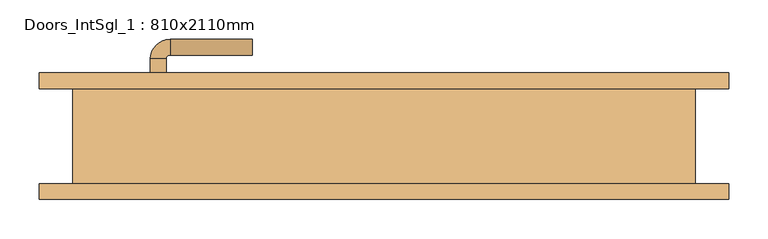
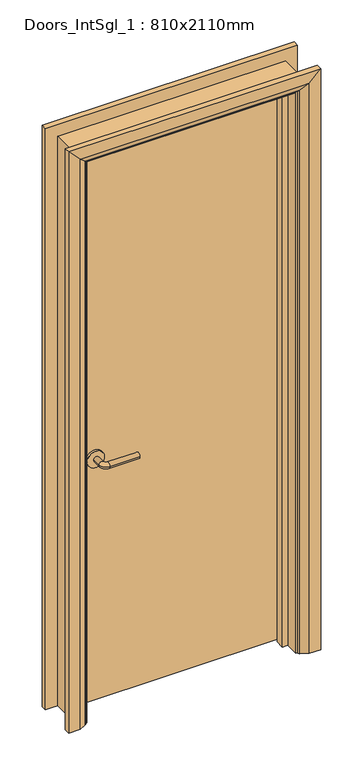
"""IFC4 building model written with IfcOpenShell, lengths in millimetres: door geometry, Doors_IntSgl_1 : 810x2110mm."""

from ifc_helpers import new_model, si_unit, point, frame, frame_2d, origin, place, context, project, spatial, polyline, circle_curve, ellipse_curve, trimmed, segment, composite_curve, outline, extrude, faceted_brep, source, transform, mapped, element, save
from ifc_brep_helpers import plane_surface, cylinder_surface, revolved_surface, advanced_brep


def doors_intsgl_1_810x2110mm_42a51698(model_context):
    return source(origin(), model_context, "Body", "SolidModel", [
        advanced_brep(
        [(-298.0, 14.75, 900.0), (-278.0, 14.75, 900.0), (-278.0, -15.25, 900.0), (-298.0, -15.25, 900.0), (-273.0, -20.25, 900.0), (-273.0, -40.25, 900.0), (-168.0, -40.25, 900.0), (-168.0, -20.25, 900.0)],
        [
            (0, 1, circle_curve(frame((-288.0, 14.75, 900.0), z_axis=(0.0, 1.0, 0.0), x_axis=(1.0, 0.0, 0.0)), 10.0)),
            (1, 0, circle_curve(frame((-288.0, 14.75, 900.0), z_axis=(0.0, 1.0, 0.0), x_axis=(1.0, 0.0, 0.0)), 10.0)),
            (1, 2),
            (2, 3, circle_curve(frame((-288.0, -15.25, 900.0), z_axis=(0.0, 1.0, 0.0), x_axis=(1.0, 0.0, 0.0)), 10.0)),
            (3, 0),
            (3, 2, circle_curve(frame((-288.0, -15.25, 900.0), z_axis=(0.0, 1.0, 0.0), x_axis=(1.0, 0.0, 0.0)), 10.0)),
            (4, 5, circle_curve(frame((-273.0, -30.25, 900.0), z_axis=(-1.0, 0.0, 0.0), x_axis=(0.0, 1.0, 0.0)), 10.0)),
            (5, 3, circle_curve(frame((-273.0, -15.25, 900.0), z_axis=(0.0, 0.0, -1.0), x_axis=(-1.0, 0.0, 0.0)), 25.0)),
            (2, 4, circle_curve(frame((-273.0, -15.25, 900.0), z_axis=(0.0, 0.0, 1.0), x_axis=(-1.0, 0.0, 0.0)), 5.0)),
            (5, 4, circle_curve(frame((-273.0, -30.25, 900.0), z_axis=(-1.0, 0.0, 0.0), x_axis=(0.0, 1.0, 0.0)), 10.0)),
            (6, 7, circle_curve(frame((-168.0, -30.25, 900.0), z_axis=(1.0, 0.0, 0.0), x_axis=(0.0, 1.0, 0.0)), 10.0)),
            (7, 6, circle_curve(frame((-168.0, -30.25, 900.0), z_axis=(1.0, 0.0, 0.0), x_axis=(0.0, 1.0, 0.0)), 10.0)),
            (4, 7),
            (6, 5),
        ],
        [
            plane_surface(frame((-288.0, 14.75, 900.0), z_axis=(0.0, 1.0, 0.0), x_axis=(0.0, 0.0, 1.0))),
            cylinder_surface(frame((-288.0, 14.75, 900.0), z_axis=(0.0, 1.0, 0.0), x_axis=(1.0, 0.0, 0.0)), 10.0),
            revolved_surface(trimmed(ellipse_curve(frame((-288.0, -15.25, 900.0), z_axis=(0.0, -1.0, 0.0), x_axis=(1.0, 0.0, 0.0)), 10.0, 10.0), [point((-298.0, -15.25, 900.0))], [point((-278.0, -15.25, 900.0))], True, "CARTESIAN"), (-273.0, -15.25, 900.0), (0.0, 0.0, -1.0)),
            revolved_surface(trimmed(ellipse_curve(frame((-288.0, -15.25, 900.0), z_axis=(0.0, -1.0, 0.0), x_axis=(1.0, 0.0, 0.0)), 10.0, 10.0), [point((-278.0, -15.25, 900.0))], [point((-298.0, -15.25, 900.0))], True, "CARTESIAN"), (-273.0, -15.25, 900.0), (0.0, 0.0, -1.0)),
            plane_surface(frame((-168.0, -30.25, 900.0), z_axis=(1.0, 0.0, 0.0), x_axis=(0.0, 0.0, 1.0))),
            cylinder_surface(frame((-273.0, -30.25, 900.0), z_axis=(-1.0, 0.0, 0.0), x_axis=(0.0, 1.0, 0.0)), 10.0),
        ],
        [
            (0, [[1, 2]]),
            (1, [[3, 4, 5, -2]]),
            (1, [[-5, 6, -3, -1]]),
            (2, [[7, 8, -4, 9]]),
            (3, [[10, -9, -6, -8]]),
            (4, [[11, 12]]),
            (5, [[13, -11, 14, -7]]),
            (5, [[-14, -12, -13, -10]]),
        ],
    ),
        extrude(outline(composite_curve([segment(trimmed(circle_curve(frame_2d((900.0, -290.5)), 30.0), [point((900.0, -320.5))], [point((900.0, -260.5))], False, "CARTESIAN"), True, "CONTINUOUS"), segment(trimmed(circle_curve(frame_2d((900.0, -290.5)), 30.0), [point((900.0, -260.5))], [point((900.0, -320.5))], False, "CARTESIAN"), True, "CONTINUOUS")], self_intersect=False)), frame((0.0, 14.75, 0.0), z_axis=(0.0, 1.0, 0.0), x_axis=(0.0, 0.0, 1.0)), (0.0, 0.0, 1.0), 8.0),
        advanced_brep(
        [(-298.0, 68.75, 900.0), (-278.0, 68.75, 900.0), (-298.0, 98.75, 900.0), (-278.0, 98.75, 900.0), (-273.0, 103.75, 900.0), (-273.0, 123.75, 900.0), (-168.0, 123.75, 900.0), (-168.0, 103.75, 900.0)],
        [
            (0, 1, circle_curve(frame((-288.0, 68.75, 900.0), z_axis=(0.0, -1.0, 0.0), x_axis=(1.0, 0.0, 0.0)), 10.0)),
            (1, 0, circle_curve(frame((-288.0, 68.75, 900.0), z_axis=(0.0, -1.0, 0.0), x_axis=(1.0, 0.0, 0.0)), 10.0)),
            (0, 2),
            (2, 3, circle_curve(frame((-288.0, 98.75, 900.0), z_axis=(0.0, -1.0, 0.0), x_axis=(1.0, 0.0, 0.0)), 10.0)),
            (3, 1),
            (3, 2, circle_curve(frame((-288.0, 98.75, 900.0), z_axis=(0.0, -1.0, 0.0), x_axis=(1.0, 0.0, 0.0)), 10.0)),
            (4, 3, circle_curve(frame((-273.0, 98.75, 900.0), z_axis=(0.0, 0.0, 1.0), x_axis=(-1.0, 0.0, 0.0)), 5.0)),
            (2, 5, circle_curve(frame((-273.0, 98.75, 900.0), z_axis=(0.0, 0.0, -1.0), x_axis=(-1.0, 0.0, 0.0)), 25.0)),
            (5, 4, circle_curve(frame((-273.0, 113.75, 900.0), z_axis=(-1.0, 0.0, 0.0), x_axis=(0.0, -1.0, 0.0)), 10.0)),
            (4, 5, circle_curve(frame((-273.0, 113.75, 900.0), z_axis=(-1.0, 0.0, 0.0), x_axis=(0.0, -1.0, 0.0)), 10.0)),
            (6, 7, circle_curve(frame((-168.0, 113.75, 900.0), z_axis=(1.0, 0.0, 0.0), x_axis=(0.0, -1.0, 0.0)), 10.0)),
            (7, 6, circle_curve(frame((-168.0, 113.75, 900.0), z_axis=(1.0, 0.0, 0.0), x_axis=(0.0, -1.0, 0.0)), 10.0)),
            (5, 6),
            (7, 4),
        ],
        [
            plane_surface(frame((-288.0, 68.75, 900.0), z_axis=(0.0, -1.0, 0.0), x_axis=(0.0, 0.0, 1.0))),
            cylinder_surface(frame((-288.0, 68.75, 900.0), z_axis=(0.0, -1.0, 0.0), x_axis=(1.0, 0.0, 0.0)), 10.0),
            revolved_surface(trimmed(ellipse_curve(frame((-288.0, 98.75, 900.0), z_axis=(0.0, -1.0, 0.0), x_axis=(1.0, 0.0, 0.0)), 10.0, 10.0), [point((-298.0, 98.75, 900.0))], [point((-278.0, 98.75, 900.0))], True, "CARTESIAN"), (-273.0, 98.75, 900.0), (0.0, 0.0, -1.0)),
            revolved_surface(trimmed(ellipse_curve(frame((-288.0, 98.75, 900.0), z_axis=(0.0, -1.0, 0.0), x_axis=(1.0, 0.0, 0.0)), 10.0, 10.0), [point((-278.0, 98.75, 900.0))], [point((-298.0, 98.75, 900.0))], True, "CARTESIAN"), (-273.0, 98.75, 900.0), (0.0, 0.0, -1.0)),
            plane_surface(frame((-168.0, 113.75, 900.0), z_axis=(1.0, 0.0, 0.0), x_axis=(0.0, 0.0, 1.0))),
            cylinder_surface(frame((-273.0, 113.75, 900.0), z_axis=(-1.0, 0.0, 0.0), x_axis=(0.0, -1.0, 0.0)), 10.0),
        ],
        [
            (0, [[1, 2]]),
            (1, [[-1, 3, 4, 5]]),
            (1, [[-2, -5, 6, -3]]),
            (2, [[7, -4, 8, 9]]),
            (3, [[-8, -6, -7, 10]]),
            (4, [[11, 12]]),
            (5, [[-9, 13, -12, 14]]),
            (5, [[-10, -14, -11, -13]]),
        ],
    ),
        extrude(outline(composite_curve([segment(trimmed(circle_curve(frame_2d((900.0, -290.5)), 30.0), [point((900.0, -320.5))], [point((900.0, -260.5))], False, "CARTESIAN"), True, "CONTINUOUS"), segment(trimmed(circle_curve(frame_2d((900.0, -290.5)), 30.0), [point((900.0, -260.5))], [point((900.0, -320.5))], False, "CARTESIAN"), True, "CONTINUOUS")], self_intersect=False)), frame((0.0, 60.75, 0.0), z_axis=(0.0, 1.0, 0.0), x_axis=(0.0, 0.0, 1.0)), (0.0, 0.0, 1.0), 8.0),
        extrude(outline(polyline([(363.0, 22.75), (-363.0, 22.75), (-363.0, 60.75), (363.0, 60.75), (363.0, 22.75)])), frame((0.0, 0.0, 8.0), z_axis=(0.0, 0.0, 1.0), x_axis=(1.0, 0.0, 0.0)), (0.0, 0.0, 1.0), 2060.0),
        advanced_brep(
        [(440.0, 80.75, 0.0), (440.0, 60.75, 0.0), (370.0, 60.75, 0.0), (374.0, 66.75, 0.0), (400.0, 80.75, 0.0), (440.0, 80.75, 2145.0), (440.0, 60.75, 2145.0), (-440.0, 60.75, 2145.0), (-440.0, 60.75, 0.0), (-370.0, 60.75, 0.0), (-370.0, 60.75, 2075.0), (370.0, 60.75, 2075.0), (374.0, 66.75, 2079.0), (400.0, 80.75, 2105.0), (-400.0, 80.75, 2105.0), (-400.0, 80.75, 0.0), (-440.0, 80.75, 0.0), (-440.0, 80.75, 2145.0), (-374.0, 66.75, 0.0), (-374.0, 66.75, 2079.0)],
        [
            (0, 1),
            (1, 2),
            (2, 3, circle_curve(frame((378.0, 59.75, 0.0), z_axis=(0.0, 0.0, -1.0), x_axis=(1.0, 0.0, 0.0)), 8.0622577)),
            (3, 4),
            (4, 0),
            (0, 5),
            (5, 6),
            (6, 1),
            (6, 7),
            (7, 8),
            (8, 9),
            (9, 10),
            (10, 11),
            (11, 2),
            (11, 12, ellipse_curve(frame((378.0, 59.75, 2083.0), z_axis=(0.7071067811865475, 0.0, -0.7071067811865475), x_axis=(-0.7071067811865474, 0.0, -0.7071067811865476)), 11.4017543, 8.0622577)),
            (12, 3),
            (12, 13),
            (13, 4),
            (13, 14),
            (14, 15),
            (15, 16),
            (16, 17),
            (17, 5),
            (7, 17),
            (16, 8),
            (15, 18),
            (18, 9, circle_curve(frame((-378.0, 59.75, 0.0), z_axis=(0.0, 0.0, -1.0), x_axis=(-1.0, 0.0, 0.0)), 8.0622577)),
            (19, 10, ellipse_curve(frame((-378.0, 59.75, 2083.0), z_axis=(-0.7071067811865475, 0.0, -0.7071067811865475), x_axis=(-0.7071067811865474, 0.0, 0.7071067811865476)), 11.4017543, 8.0622577)),
            (18, 19),
            (14, 19),
            (19, 12),
        ],
        [
            plane_surface(frame((370.0, 60.75, 0.0), z_axis=(0.0, 0.0, -1.0), x_axis=(0.0, -1.0, 0.0))),
            plane_surface(frame((440.0, 80.75, 0.0), z_axis=(1.0, 0.0, 0.0), x_axis=(0.0, 0.0, 1.0))),
            plane_surface(frame((440.0, 60.75, 0.0), z_axis=(0.0, -1.0, 0.0), x_axis=(0.0, 0.0, 1.0))),
            cylinder_surface(frame((378.0, 59.75, 0.0), z_axis=(0.0, 0.0, -1.0), x_axis=(1.0, 0.0, 0.0)), 8.0622577),
            plane_surface(frame((374.0, 66.75, 0.0), z_axis=(-0.4740998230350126, 0.880471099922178, 0.0), x_axis=(0.0, 0.0, 1.0))),
            plane_surface(frame((400.0, 80.75, 0.0), z_axis=(0.0, 1.0, 0.0), x_axis=(0.0, 0.0, 1.0))),
            plane_surface(frame((-440.0, 80.75, 2145.0), z_axis=(-1.0, 0.0, 0.0), x_axis=(0.0, 0.0, -1.0))),
            plane_surface(frame((-370.0, 60.75, 0.0), z_axis=(0.0, 0.0, -1.0), x_axis=(0.0, -1.0, 0.0))),
            cylinder_surface(frame((-378.0, 59.75, 2075.0), z_axis=(0.0, 0.0, 1.0), x_axis=(-1.0, 0.0, 0.0)), 8.0622577),
            plane_surface(frame((-374.0, 66.75, 2079.0), z_axis=(0.47409982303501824, 0.8804710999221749, 0.0), x_axis=(0.0, 0.0, -1.0))),
            plane_surface(frame((440.0, 80.75, 2145.0), z_axis=(0.0, 0.0, 1.0), x_axis=(-1.0, 0.0, 0.0))),
            cylinder_surface(frame((370.0, 59.75, 2083.0), z_axis=(1.0, 0.0, 0.0), x_axis=(0.0, 0.0, 1.0)), 8.0622577),
            plane_surface(frame((374.0, 66.75, 2079.0), z_axis=(0.0, 0.8804710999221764, -0.4740998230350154), x_axis=(-1.0, 0.0, 0.0))),
        ],
        [
            (0, [[1, 2, 3, 4, 5]]),
            (1, [[-1, 6, 7, 8]]),
            (2, [[-2, -8, 9, 10, 11, 12, 13, 14]]),
            (3, [[-3, -14, 15, 16]]),
            (4, [[-4, -16, 17, 18]]),
            (5, [[-5, -18, 19, 20, 21, 22, 23, -6]]),
            (6, [[24, -22, 25, -10]]),
            (7, [[-21, 26, 27, -11, -25]]),
            (8, [[28, -12, -27, 29]]),
            (9, [[30, -29, -26, -20]]),
            (10, [[-7, -23, -24, -9]]),
            (11, [[-15, -13, -28, 31]]),
            (12, [[-17, -31, -30, -19]]),
        ],
    ),
        extrude(outline(polyline([(0.0, -365.0), (0.0, -346.0), (2051.0, -346.0), (2051.0, 346.0), (0.0, 346.0), (0.0, 365.0), (2070.0, 365.0), (2070.0, -365.0), (0.0, -365.0)])), frame((0.0, -11.25, 0.0), z_axis=(0.0, 1.0, 0.0), x_axis=(0.0, 0.0, 1.0)), (0.0, 0.0, 1.0), 32.0),
        advanced_brep(
        [(-440.0, -80.75, 0.0), (-440.0, -60.75, 0.0), (-370.0, -60.75, 0.0), (-374.0, -66.75, 0.0), (-400.0, -80.75, 0.0), (-440.0, -80.75, 2145.0), (-440.0, -60.75, 2145.0), (-370.0, -60.75, 2075.0), (-374.0, -66.75, 2079.0), (-400.0, -80.75, 2105.0), (440.0, -80.75, 0.0), (400.0, -80.75, 0.0), (374.0, -66.75, 0.0), (370.0, -60.75, 0.0), (440.0, -60.75, 0.0), (440.0, -80.75, 2145.0), (400.0, -80.75, 2105.0), (374.0, -66.75, 2079.0), (370.0, -60.75, 2075.0), (440.0, -60.75, 2145.0)],
        [
            (0, 1),
            (1, 2),
            (2, 3, circle_curve(frame((-378.0, -59.75, 0.0), z_axis=(0.0, 0.0, -1.0), x_axis=(-1.0, 0.0, 0.0)), 8.0622577)),
            (3, 4),
            (4, 0),
            (0, 5),
            (5, 6),
            (6, 1),
            (6, 7),
            (7, 2),
            (7, 8, ellipse_curve(frame((-378.0, -59.75, 2083.0), z_axis=(-0.7071067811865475, 0.0, -0.7071067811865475), x_axis=(0.7071067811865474, 0.0, -0.7071067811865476)), 11.4017543, 8.0622577)),
            (8, 3),
            (8, 9),
            (9, 4),
            (9, 5),
            (10, 11),
            (11, 12),
            (12, 13, circle_curve(frame((378.0, -59.75, 0.0), z_axis=(0.0, 0.0, -1.0), x_axis=(1.0, 0.0, 0.0)), 8.0622577)),
            (13, 14),
            (14, 10),
            (15, 16),
            (16, 11),
            (10, 15),
            (16, 17),
            (17, 12),
            (17, 18, ellipse_curve(frame((378.0, -59.75, 2083.0), z_axis=(0.7071067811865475, 0.0, -0.7071067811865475), x_axis=(0.7071067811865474, 0.0, 0.7071067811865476)), 11.4017543, 8.0622577)),
            (18, 13),
            (18, 19),
            (19, 14),
            (19, 15),
            (5, 15),
            (19, 6),
            (18, 7),
            (17, 8),
            (16, 9),
        ],
        [
            plane_surface(frame((-370.0, -133.5510989, 0.0), z_axis=(0.0, 0.0, -1.0), x_axis=(1.0, 0.0, 0.0))),
            plane_surface(frame((-440.0, -80.75, 0.0), z_axis=(-1.0, 0.0, 0.0), x_axis=(0.0, 0.0, 1.0))),
            plane_surface(frame((-440.0, -60.75, 0.0), z_axis=(0.0, 1.0, 0.0), x_axis=(0.0, 0.0, 1.0))),
            cylinder_surface(frame((-378.0, -59.75, 0.0), z_axis=(0.0, 0.0, -1.0), x_axis=(-1.0, 0.0, 0.0)), 8.0622577),
            plane_surface(frame((-374.0, -66.75, 0.0), z_axis=(0.4740998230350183, -0.8804710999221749, 0.0), x_axis=(0.0, 0.0, 1.0))),
            plane_surface(frame((-400.0, -80.75, 0.0), z_axis=(0.0, -1.0, 0.0), x_axis=(0.0, 0.0, 1.0))),
            plane_surface(frame((370.0, -133.5510989, 0.0), z_axis=(0.0, 0.0, -1.0), x_axis=(-1.0, 0.0, 0.0))),
            plane_surface(frame((400.0, -80.75, 2105.0), z_axis=(0.0, -1.0, 0.0), x_axis=(0.0, 0.0, -1.0))),
            plane_surface(frame((374.0, -66.75, 2079.0), z_axis=(-0.4740998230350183, -0.8804710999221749, 0.0), x_axis=(0.0, 0.0, -1.0))),
            cylinder_surface(frame((378.0, -59.75, 2075.0), z_axis=(0.0, 0.0, 1.0), x_axis=(1.0, 0.0, 0.0)), 8.0622577),
            plane_surface(frame((440.0, -60.75, 2145.0), z_axis=(0.0, 1.0, 0.0), x_axis=(0.0, 0.0, -1.0))),
            plane_surface(frame((440.0, -80.75, 2145.0), z_axis=(1.0, 0.0, 0.0), x_axis=(0.0, 0.0, -1.0))),
            plane_surface(frame((-440.0, -80.75, 2145.0), z_axis=(0.0, 0.0, 1.0), x_axis=(1.0, 0.0, 0.0))),
            plane_surface(frame((-440.0, -60.75, 2145.0), z_axis=(0.0, 1.0, 0.0), x_axis=(1.0, 0.0, 0.0))),
            cylinder_surface(frame((-370.0, -59.75, 2083.0), z_axis=(-1.0, 0.0, 0.0), x_axis=(0.0, 0.0, 1.0)), 8.0622577),
            plane_surface(frame((-374.0, -66.75, 2079.0), z_axis=(0.0, -0.8804710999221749, -0.4740998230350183), x_axis=(1.0, 0.0, 0.0))),
            plane_surface(frame((-400.0, -80.75, 2105.0), z_axis=(0.0, -1.0, 0.0), x_axis=(1.0, 0.0, 0.0))),
        ],
        [
            (0, [[1, 2, 3, 4, 5]]),
            (1, [[-1, 6, 7, 8]]),
            (2, [[-2, -8, 9, 10]]),
            (3, [[-3, -10, 11, 12]]),
            (4, [[-4, -12, 13, 14]]),
            (5, [[-5, -14, 15, -6]]),
            (6, [[16, 17, 18, 19, 20]]),
            (7, [[21, 22, -16, 23]]),
            (8, [[24, 25, -17, -22]]),
            (9, [[26, 27, -18, -25]]),
            (10, [[28, 29, -19, -27]]),
            (11, [[30, -23, -20, -29]]),
            (12, [[-7, 31, -30, 32]]),
            (13, [[-9, -32, -28, 33]]),
            (14, [[-11, -33, -26, 34]]),
            (15, [[-13, -34, -24, 35]]),
            (16, [[-15, -35, -21, -31]]),
        ],
    ),
        faceted_brep([(-365.0, 60.75, 0.0), (-365.0, -60.75, 0.0), (-397.0, -60.75, 0.0), (-397.0, 60.75, 0.0), (-365.0, 60.75, 2070.0), (-365.0, -60.75, 2070.0), (-397.0, -60.75, 2102.0), (-397.0, 60.75, 2102.0), (365.0, 60.75, 0.0), (397.0, 60.75, 0.0), (397.0, -60.75, 0.0), (365.0, -60.75, 0.0), (365.0, 60.75, 2070.0), (397.0, 60.75, 2102.0), (397.0, -60.75, 2102.0), (365.0, -60.75, 2070.0)], [[[0, 1, 2, 3]], [[1, 0, 4, 5]], [[2, 1, 5, 6]], [[3, 2, 6, 7]], [[0, 3, 7, 4]], [[8, 9, 10, 11]], [[12, 13, 9, 8]], [[13, 14, 10, 9]], [[14, 15, 11, 10]], [[15, 12, 8, 11]], [[5, 4, 12, 15]], [[6, 5, 15, 14]], [[7, 6, 14, 13]], [[4, 7, 13, 12]]]),
    ])


if __name__ == "__main__":
    model = new_model("IFC4")
    model_context = context("Model", 3, world=origin())
    ifc_project = project(units=[si_unit("LENGTHUNIT", "METRE", prefix="MILLI")], contexts=[model_context])
    site = spatial("IfcSite", under=ifc_project)
    building = spatial("IfcBuilding", under=site)
    placement = place(None, origin())
    doors_intsgl_1_810x2110mm_shape = doors_intsgl_1_810x2110mm_42a51698(model_context)
    element("IfcDoor", 1, ObjectType="Doors_IntSgl_1 : 810x2110mm", at=placement, inside=building, context=model_context, shape_type="MappedRepresentation", body=[
        mapped(doors_intsgl_1_810x2110mm_shape, transform((0.0, 0.0, 0.0), x_axis=(1.0, 0.0, 0.0), y_axis=(0.0, 1.0, 0.0), z_axis=(0.0, 0.0, 1.0))),
    ])
    save(model, "model.ifc")
